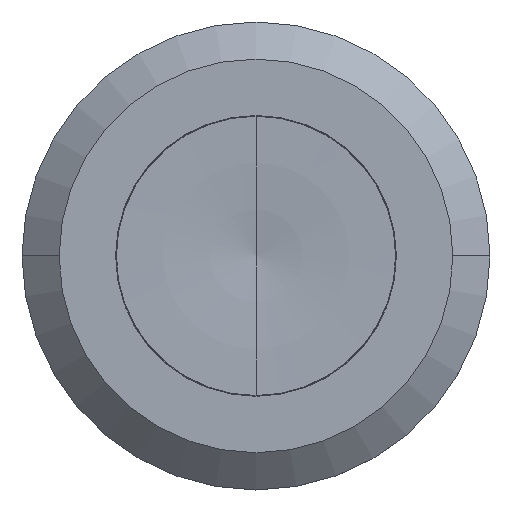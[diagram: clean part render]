
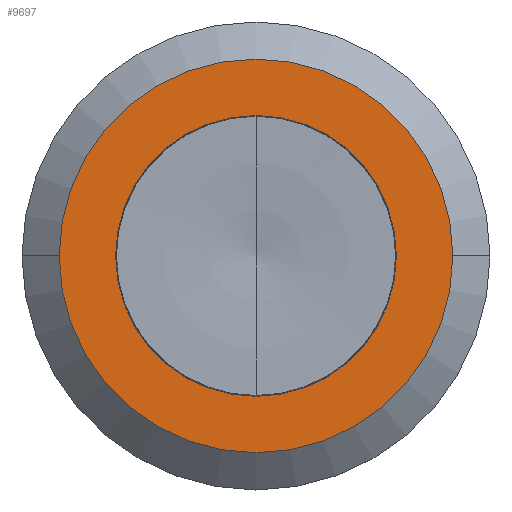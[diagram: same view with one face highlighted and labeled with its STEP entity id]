
A CAD part, top view. The second image highlights one B-rep face of the part: STEP entity #9697.
In plain terms, the highlighted planar face has unit normal (0, 0, 1).
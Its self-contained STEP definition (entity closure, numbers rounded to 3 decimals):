
#128 = CARTESIAN_POINT ( 'NONE',  ( 0., 0., 1.8 ) ) ;
#497 = AXIS2_PLACEMENT_3D ( 'NONE', #128, #4615, #4715 ) ;
#853 = DIRECTION ( 'NONE',  ( 1., 0., 0. ) ) ;
#1191 = ORIENTED_EDGE ( 'NONE', *, *, #11698, .F. ) ;
#1498 = AXIS2_PLACEMENT_3D ( 'NONE', #6500, #16585, #6399 ) ;
#1697 = EDGE_CURVE ( 'NONE', #15711, #9392, #3831, .T. ) ;
#2516 = CIRCLE ( 'NONE', #19126, 6.308 ) ;
#2548 = EDGE_LOOP ( 'NONE', ( #8233, #9500 ) ) ;
#3831 = CIRCLE ( 'NONE', #497, 6.308 ) ;
#4615 = DIRECTION ( 'NONE',  ( 0., 0., 1. ) ) ;
#4715 = DIRECTION ( 'NONE',  ( 1., 0., 0. ) ) ;
#5438 = DIRECTION ( 'NONE',  ( 0., 0., 1. ) ) ;
#5943 = CARTESIAN_POINT ( 'NONE',  ( 0., 0., 1.8 ) ) ;
#6399 = DIRECTION ( 'NONE',  ( 1., 0., 0. ) ) ;
#6500 = CARTESIAN_POINT ( 'NONE',  ( 0., 0., 1.8 ) ) ;
#8039 = EDGE_CURVE ( 'NONE', #9761, #10650, #18540, .T. ) ;
#8162 = CARTESIAN_POINT ( 'NONE',  ( -6.308, 0., 1.8 ) ) ;
#8233 = ORIENTED_EDGE ( 'NONE', *, *, #1697, .T. ) ;
#8472 = DIRECTION ( 'NONE',  ( 1., 0., 0. ) ) ;
#8552 = CARTESIAN_POINT ( 'NONE',  ( -4.5, 0., 1.8 ) ) ;
#8910 = CARTESIAN_POINT ( 'NONE',  ( 6.308, 0., 1.8 ) ) ;
#9029 = EDGE_LOOP ( 'NONE', ( #9897, #1191 ) ) ;
#9392 = VERTEX_POINT ( 'NONE', #8910 ) ;
#9500 = ORIENTED_EDGE ( 'NONE', *, *, #12165, .T. ) ;
#9697 = ADVANCED_FACE ( 'NONE', ( #13257, #15013 ), #18154, .T. ) ;
#9761 = VERTEX_POINT ( 'NONE', #8552 ) ;
#9897 = ORIENTED_EDGE ( 'NONE', *, *, #8039, .F. ) ;
#10650 = VERTEX_POINT ( 'NONE', #19853 ) ;
#11698 = EDGE_CURVE ( 'NONE', #10650, #9761, #15492, .T. ) ;
#12165 = EDGE_CURVE ( 'NONE', #9392, #15711, #2516, .T. ) ;
#12693 = DIRECTION ( 'NONE',  ( 1., 0., 0. ) ) ;
#13178 = CARTESIAN_POINT ( 'NONE',  ( 0., 0., 1.8 ) ) ;
#13257 = FACE_OUTER_BOUND ( 'NONE', #2548, .T. ) ;
#13557 = AXIS2_PLACEMENT_3D ( 'NONE', #13178, #5438, #8472 ) ;
#15013 = FACE_BOUND ( 'NONE', #9029, .T. ) ;
#15146 = DIRECTION ( 'NONE',  ( 0., 0., 1. ) ) ;
#15492 = CIRCLE ( 'NONE', #20141, 4.5 ) ;
#15711 = VERTEX_POINT ( 'NONE', #8162 ) ;
#16585 = DIRECTION ( 'NONE',  ( 0., 0., 1. ) ) ;
#17385 = DIRECTION ( 'NONE',  ( 0., 0., 1. ) ) ;
#18154 = PLANE ( 'NONE',  #1498 ) ;
#18290 = CARTESIAN_POINT ( 'NONE',  ( 0., 0., 1.8 ) ) ;
#18540 = CIRCLE ( 'NONE', #13557, 4.5 ) ;
#19126 = AXIS2_PLACEMENT_3D ( 'NONE', #18290, #15146, #853 ) ;
#19853 = CARTESIAN_POINT ( 'NONE',  ( 4.5, 0., 1.8 ) ) ;
#20141 = AXIS2_PLACEMENT_3D ( 'NONE', #5943, #17385, #12693 ) ;
